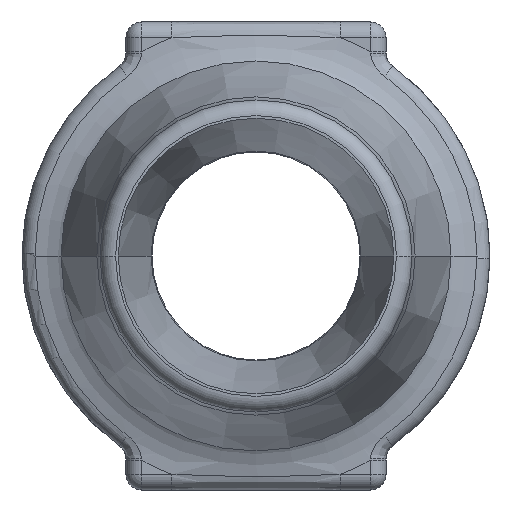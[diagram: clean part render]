
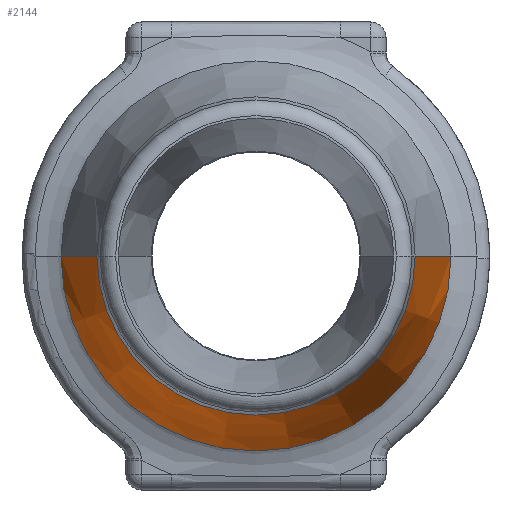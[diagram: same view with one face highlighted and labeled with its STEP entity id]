
A CAD part, left-side view. The second image highlights one B-rep face of the part: STEP entity #2144.
In plain terms, the highlighted conical face has half-angle 14.036 degrees and reference radius 3.405 mm.
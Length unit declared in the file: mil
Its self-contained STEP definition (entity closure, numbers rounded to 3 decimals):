
#182 = DIRECTION ( 'NONE',  ( -0.97, -0.243, 0. ) ) ;
#199 = VERTEX_POINT ( 'NONE', #2231 ) ;
#367 = CONICAL_SURFACE ( 'NONE', #5250, 134.05, 0.245 ) ;
#797 = DIRECTION ( 'NONE',  ( 0., 1., 0. ) ) ;
#852 = DIRECTION ( 'NONE',  ( -1., 0., 0. ) ) ;
#978 = VERTEX_POINT ( 'NONE', #1374 ) ;
#1005 = FACE_OUTER_BOUND ( 'NONE', #5396, .T. ) ;
#1186 = ORIENTED_EDGE ( 'NONE', *, *, #4446, .T. ) ;
#1299 = VERTEX_POINT ( 'NONE', #4236 ) ;
#1374 = CARTESIAN_POINT ( 'NONE',  ( -748.031, 147.638, 0. ) ) ;
#1390 = CIRCLE ( 'NONE', #4234, 120.461 ) ;
#1455 = ORIENTED_EDGE ( 'NONE', *, *, #5021, .F. ) ;
#1640 = EDGE_CURVE ( 'NONE', #978, #3440, #1906, .T. ) ;
#1651 = CIRCLE ( 'NONE', #3425, 147.638 ) ;
#1906 = LINE ( 'NONE', #5217, #2674 ) ;
#1970 = CARTESIAN_POINT ( 'NONE',  ( -802.385, 0., 0. ) ) ;
#2144 = ADVANCED_FACE ( 'NONE', ( #1005 ), #367, .T. ) ;
#2231 = CARTESIAN_POINT ( 'NONE',  ( -748.031, -147.638, 0. ) ) ;
#2264 = DIRECTION ( 'NONE',  ( -0.97, 0.243, 0. ) ) ;
#2362 = DIRECTION ( 'NONE',  ( 0., -1., 0. ) ) ;
#2510 = CARTESIAN_POINT ( 'NONE',  ( -856.738, 0., 0. ) ) ;
#2674 = VECTOR ( 'NONE', #182, 39370.079 ) ;
#2700 = DIRECTION ( 'NONE',  ( 1., 0., 0. ) ) ;
#2816 = DIRECTION ( 'NONE',  ( -1., 0., 0. ) ) ;
#3425 = AXIS2_PLACEMENT_3D ( 'NONE', #4646, #852, #797 ) ;
#3429 = ORIENTED_EDGE ( 'NONE', *, *, #3669, .T. ) ;
#3440 = VERTEX_POINT ( 'NONE', #3548 ) ;
#3548 = CARTESIAN_POINT ( 'NONE',  ( -856.738, 120.461, 0. ) ) ;
#3669 = EDGE_CURVE ( 'NONE', #199, #1299, #3934, .T. ) ;
#3731 = VECTOR ( 'NONE', #2264, 39370.079 ) ;
#3934 = LINE ( 'NONE', #4798, #3731 ) ;
#4087 = ORIENTED_EDGE ( 'NONE', *, *, #1640, .F. ) ;
#4205 = DIRECTION ( 'NONE',  ( 0., 1., 0. ) ) ;
#4234 = AXIS2_PLACEMENT_3D ( 'NONE', #2510, #2816, #4205 ) ;
#4236 = CARTESIAN_POINT ( 'NONE',  ( -856.738, -120.461, 0. ) ) ;
#4446 = EDGE_CURVE ( 'NONE', #978, #199, #1651, .T. ) ;
#4646 = CARTESIAN_POINT ( 'NONE',  ( -748.031, 0., 0. ) ) ;
#4798 = CARTESIAN_POINT ( 'NONE',  ( -748.031, -147.638, 0. ) ) ;
#5021 = EDGE_CURVE ( 'NONE', #3440, #1299, #1390, .T. ) ;
#5217 = CARTESIAN_POINT ( 'NONE',  ( -748.031, 147.638, 0. ) ) ;
#5250 = AXIS2_PLACEMENT_3D ( 'NONE', #1970, #2700, #2362 ) ;
#5396 = EDGE_LOOP ( 'NONE', ( #4087, #1186, #3429, #1455 ) ) ;
